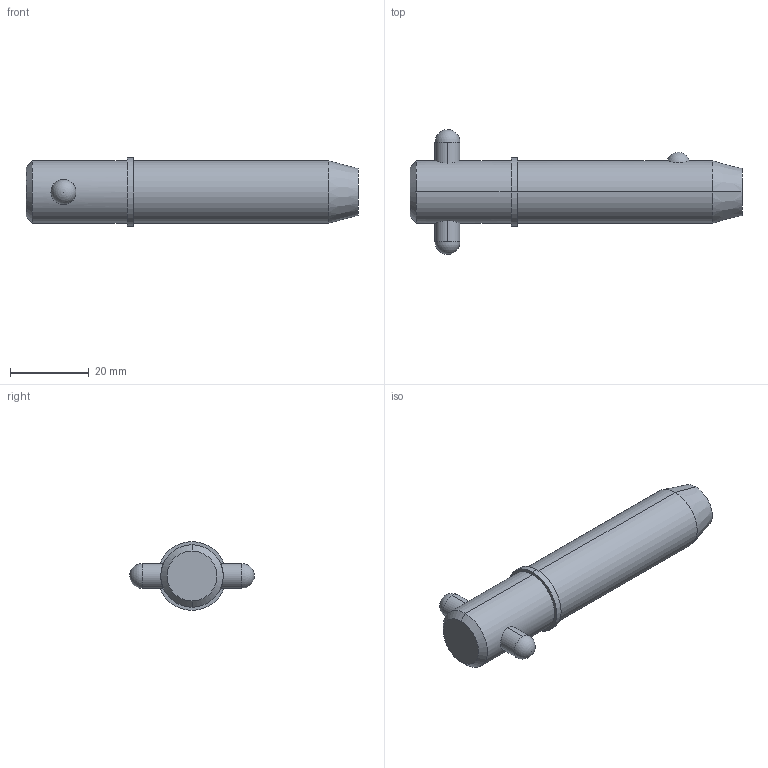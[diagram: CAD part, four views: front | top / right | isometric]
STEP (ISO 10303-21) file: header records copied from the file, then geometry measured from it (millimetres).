
FILE_DESCRIPTION (( 'STEP AP203' ), '1' );
FILE_NAME ('33018.W6215.step', '2024-11-19T17:18:07', ( '' ), ( '' ), 'SwSTEP 2.0', 'SolidWorks 2019', '' );
FILE_SCHEMA (( 'CONFIG_CONTROL_DESIGN' ));
Length unit declared in the file: millimetre
Products named in the file (3): 33018.W6215; Part2_33018.W6215; Part1_33018.W6215
Assembly tree (2 placements, depth 2):
  33018.W6215
    Part1_33018.W6215
    Part2_33018.W6215
Bounding box: 84.46 x 31.75 x 17.47 mm (x, y, z)
Volume: 16880.7 mm3; surface area: 5420.2 mm2
Topology: 2 solids, 2 shells, 22 faces, 47 edges, 30 vertices
Faces by surface type: cylinder 10, sphere 4, cone 4, plane 4
Entity records: 1047 total; most frequent: CARTESIAN_POINT 290, DIRECTION 110, ORIENTED_EDGE 82, AXIS2_PLACEMENT_3D 48, EDGE_CURVE 41, EDGE_LOOP 27, PERSON_AND_ORGANIZATION 26, VERTEX_POINT 26
